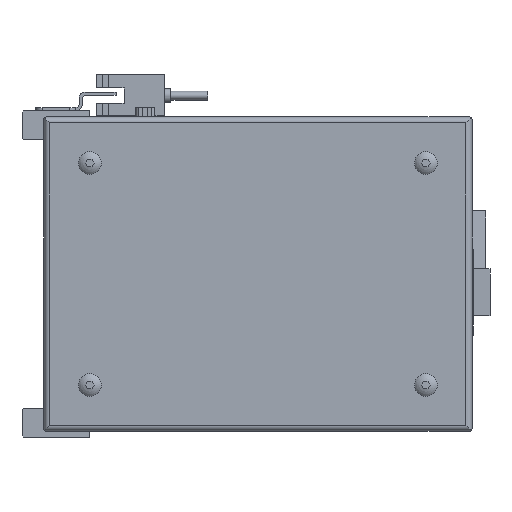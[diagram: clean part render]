
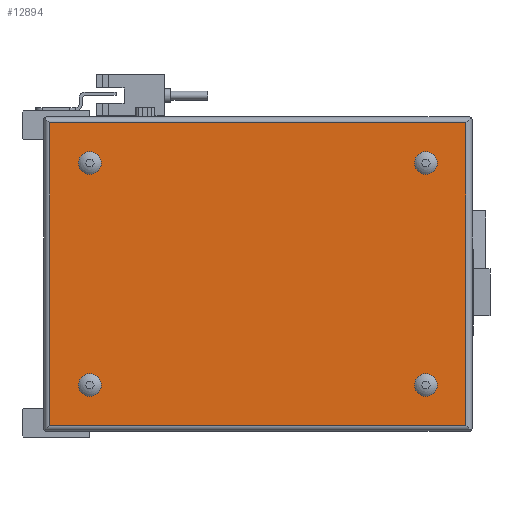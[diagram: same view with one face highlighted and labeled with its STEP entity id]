
A CAD part, left-side view. The second image highlights one B-rep face of the part: STEP entity #12894.
In plain terms, the highlighted planar face has unit normal (-1, 0, 0).
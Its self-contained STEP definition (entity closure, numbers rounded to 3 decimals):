
#356=PLANE('',#13827);
#1090=LINE('',#19595,#2395);
#1091=LINE('',#19598,#2396);
#1092=LINE('',#19600,#2397);
#1093=LINE('',#19602,#2398);
#2395=VECTOR('',#15772,1000.);
#2396=VECTOR('',#15773,1000.);
#2397=VECTOR('',#15774,1000.);
#2398=VECTOR('',#15775,1000.);
#4275=ORIENTED_EDGE('',*,*,#7504,.F.);
#4276=ORIENTED_EDGE('',*,*,#7505,.F.);
#4277=ORIENTED_EDGE('',*,*,#7506,.F.);
#4278=ORIENTED_EDGE('',*,*,#7507,.F.);
#4279=ORIENTED_EDGE('',*,*,#7508,.T.);
#4280=ORIENTED_EDGE('',*,*,#7509,.F.);
#4281=ORIENTED_EDGE('',*,*,#7510,.F.);
#4282=ORIENTED_EDGE('',*,*,#7511,.T.);
#7504=EDGE_CURVE('',#9210,#9210,#10250,.F.);
#7505=EDGE_CURVE('',#9211,#9211,#10251,.F.);
#7506=EDGE_CURVE('',#9212,#9212,#10252,.F.);
#7507=EDGE_CURVE('',#9213,#9213,#10253,.F.);
#7508=EDGE_CURVE('',#9214,#9215,#1090,.F.);
#7509=EDGE_CURVE('',#9216,#9215,#1091,.T.);
#7510=EDGE_CURVE('',#9217,#9216,#1092,.F.);
#7511=EDGE_CURVE('',#9217,#9214,#1093,.T.);
#9210=VERTEX_POINT('',#19588);
#9211=VERTEX_POINT('',#19590);
#9212=VERTEX_POINT('',#19592);
#9213=VERTEX_POINT('',#19594);
#9214=VERTEX_POINT('',#19596);
#9215=VERTEX_POINT('',#19597);
#9216=VERTEX_POINT('',#19599);
#9217=VERTEX_POINT('',#19601);
#10250=CIRCLE('',#13828,3.7);
#10251=CIRCLE('',#13829,3.7);
#10252=CIRCLE('',#13830,3.7);
#10253=CIRCLE('',#13831,3.7);
#10827=EDGE_LOOP('',(#4275));
#10828=EDGE_LOOP('',(#4276));
#10829=EDGE_LOOP('',(#4277));
#10830=EDGE_LOOP('',(#4278));
#10831=EDGE_LOOP('',(#4279,#4280,#4281,#4282));
#11782=FACE_BOUND('',#10827,.T.);
#11783=FACE_BOUND('',#10828,.T.);
#11784=FACE_BOUND('',#10829,.T.);
#11785=FACE_BOUND('',#10830,.T.);
#11786=FACE_BOUND('',#10831,.T.);
#12894=ADVANCED_FACE('',(#11782,#11783,#11784,#11785,#11786),#356,.F.);
#13827=AXIS2_PLACEMENT_3D('',#19586,#15762,#15763);
#13828=AXIS2_PLACEMENT_3D('',#19587,#15764,#15765);
#13829=AXIS2_PLACEMENT_3D('',#19589,#15766,#15767);
#13830=AXIS2_PLACEMENT_3D('',#19591,#15768,#15769);
#13831=AXIS2_PLACEMENT_3D('',#19593,#15770,#15771);
#15762=DIRECTION('',(1.,0.,0.));
#15763=DIRECTION('',(0.,0.,-1.));
#15764=DIRECTION('',(1.,0.,0.));
#15765=DIRECTION('',(0.,0.,-1.));
#15766=DIRECTION('',(1.,0.,0.));
#15767=DIRECTION('',(0.,0.,-1.));
#15768=DIRECTION('',(1.,0.,0.));
#15769=DIRECTION('',(0.,0.,-1.));
#15770=DIRECTION('',(1.,0.,0.));
#15771=DIRECTION('',(0.,0.,-1.));
#15772=DIRECTION('',(0.,-1.,0.));
#15773=DIRECTION('',(0.,0.,1.));
#15774=DIRECTION('',(0.,-1.,0.));
#15775=DIRECTION('',(0.,0.,1.));
#19586=CARTESIAN_POINT('',(-52.,-75.,50.));
#19587=CARTESIAN_POINT('',(-52.,-61.,36.));
#19588=CARTESIAN_POINT('',(-52.,-61.,32.3));
#19589=CARTESIAN_POINT('',(-52.,-61.,-36.));
#19590=CARTESIAN_POINT('',(-52.,-61.,-39.7));
#19591=CARTESIAN_POINT('',(-52.,48.,36.));
#19592=CARTESIAN_POINT('',(-52.,48.,32.3));
#19593=CARTESIAN_POINT('',(-52.,48.,-36.));
#19594=CARTESIAN_POINT('',(-52.,48.,-39.7));
#19595=CARTESIAN_POINT('',(-52.,139.,49.));
#19596=CARTESIAN_POINT('',(-52.,-74.,49.));
#19597=CARTESIAN_POINT('',(-52.,61.,49.));
#19598=CARTESIAN_POINT('',(-52.,61.,-102.));
#19599=CARTESIAN_POINT('',(-52.,61.,-49.));
#19600=CARTESIAN_POINT('',(-52.,139.,-49.));
#19601=CARTESIAN_POINT('',(-52.,-74.,-49.));
#19602=CARTESIAN_POINT('',(-52.,-74.,-102.));
